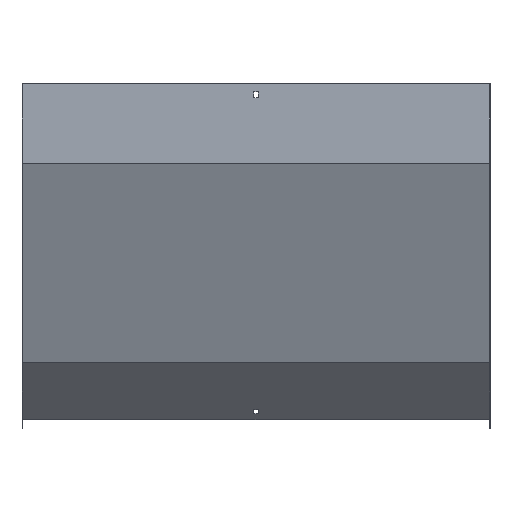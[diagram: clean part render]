
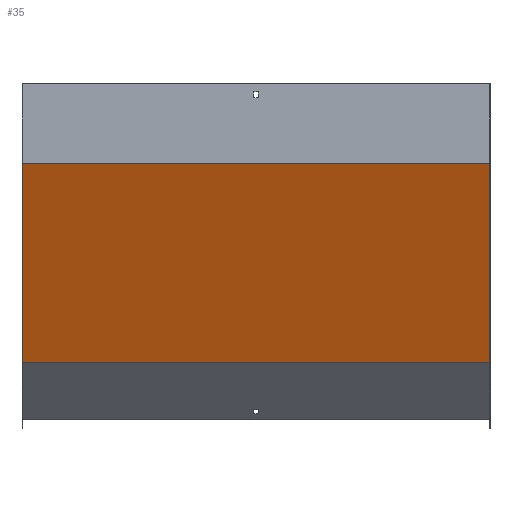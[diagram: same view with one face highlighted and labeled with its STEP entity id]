
A CAD part, front view. The second image highlights one B-rep face of the part: STEP entity #35.
In plain terms, the highlighted planar face has unit normal (0, -0.924, -0.383).
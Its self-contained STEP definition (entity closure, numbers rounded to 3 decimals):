
#15 = AXIS2_PLACEMENT_3D ( 'NONE', #112, #694, #444 ) ;
#35 = ADVANCED_FACE ( 'NONE', ( #704 ), #639, .F. ) ;
#48 = LINE ( 'NONE', #847, #495 ) ;
#112 = CARTESIAN_POINT ( 'NONE',  ( 351.5, -1.386, -120.574 ) ) ;
#127 = DIRECTION ( 'NONE',  ( 0., 0.383, -0.924 ) ) ;
#202 = VERTEX_POINT ( 'NONE', #701 ) ;
#225 = LINE ( 'NONE', #385, #846 ) ;
#240 = EDGE_CURVE ( 'NONE', #772, #620, #346, .T. ) ;
#250 = DIRECTION ( 'NONE',  ( 0., 0.383, -0.924 ) ) ;
#295 = ORIENTED_EDGE ( 'NONE', *, *, #240, .F. ) ;
#302 = EDGE_CURVE ( 'NONE', #348, #620, #520, .T. ) ;
#311 = ORIENTED_EDGE ( 'NONE', *, *, #302, .T. ) ;
#346 = LINE ( 'NONE', #623, #508 ) ;
#348 = VERTEX_POINT ( 'NONE', #488 ) ;
#385 = CARTESIAN_POINT ( 'NONE',  ( 351.5, -1.5, -120.298 ) ) ;
#444 = DIRECTION ( 'NONE',  ( 0., -0.383, 0.924 ) ) ;
#478 = CARTESIAN_POINT ( 'NONE',  ( -350., 122.335, -419.263 ) ) ;
#488 = CARTESIAN_POINT ( 'NONE',  ( -350., -1.5, -120.298 ) ) ;
#495 = VECTOR ( 'NONE', #250, 1000. ) ;
#496 = DIRECTION ( 'NONE',  ( -1., 0., 0. ) ) ;
#508 = VECTOR ( 'NONE', #496, 1000. ) ;
#520 = LINE ( 'NONE', #783, #661 ) ;
#531 = EDGE_LOOP ( 'NONE', ( #311, #295, #854, #848 ) ) ;
#620 = VERTEX_POINT ( 'NONE', #478 ) ;
#623 = CARTESIAN_POINT ( 'NONE',  ( 351.5, 122.335, -419.263 ) ) ;
#639 = PLANE ( 'NONE',  #15 ) ;
#657 = DIRECTION ( 'NONE',  ( -1., 0., 0. ) ) ;
#661 = VECTOR ( 'NONE', #127, 1000. ) ;
#694 = DIRECTION ( 'NONE',  ( 0., 0.924, 0.383 ) ) ;
#701 = CARTESIAN_POINT ( 'NONE',  ( 350., -1.5, -120.298 ) ) ;
#704 = FACE_OUTER_BOUND ( 'NONE', #531, .T. ) ;
#707 = CARTESIAN_POINT ( 'NONE',  ( 350., 122.335, -419.263 ) ) ;
#723 = EDGE_CURVE ( 'NONE', #202, #348, #225, .T. ) ;
#749 = EDGE_CURVE ( 'NONE', #202, #772, #48, .T. ) ;
#772 = VERTEX_POINT ( 'NONE', #707 ) ;
#783 = CARTESIAN_POINT ( 'NONE',  ( -350., -43.812, -18.148 ) ) ;
#846 = VECTOR ( 'NONE', #657, 1000. ) ;
#847 = CARTESIAN_POINT ( 'NONE',  ( 350., -43.812, -18.148 ) ) ;
#848 = ORIENTED_EDGE ( 'NONE', *, *, #723, .T. ) ;
#854 = ORIENTED_EDGE ( 'NONE', *, *, #749, .F. ) ;
